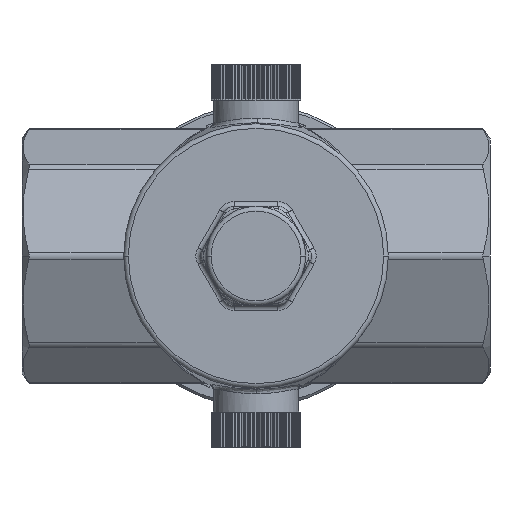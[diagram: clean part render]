
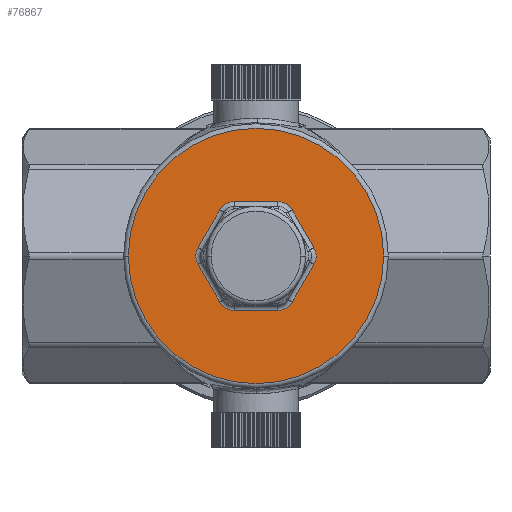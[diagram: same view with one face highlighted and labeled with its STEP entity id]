
A CAD part, front view. The second image highlights one B-rep face of the part: STEP entity #76867.
In plain terms, the highlighted planar face has unit normal (0, -1, 0).
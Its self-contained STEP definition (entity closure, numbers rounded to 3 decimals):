
#75714=CARTESIAN_POINT('',(-4.619,21.,8.));
#75715=DIRECTION('',(0.,-1.,0.));
#75716=DIRECTION('',(0.,0.,1.));
#75717=AXIS2_PLACEMENT_3D('',#75714,#75715,#75716);
#75719=DIRECTION('',(-0.5,0.,-0.866));
#75720=VECTOR('',#75719,9.238);
#75721=CARTESIAN_POINT('',(-7.65,21.,9.75));
#75722=LINE('',#75721,#75720);
#75723=CARTESIAN_POINT('',(-9.238,21.,0.));
#75724=DIRECTION('',(0.,-1.,0.));
#75725=DIRECTION('',(-0.866,0.,0.5));
#75726=AXIS2_PLACEMENT_3D('',#75723,#75724,#75725);
#75728=DIRECTION('',(0.5,0.,-0.866));
#75729=VECTOR('',#75728,9.238);
#75730=CARTESIAN_POINT('',(-12.269,21.,-1.75));
#75731=LINE('',#75730,#75729);
#75732=CARTESIAN_POINT('',(-4.619,21.,-8.));
#75733=DIRECTION('',(0.,-1.,0.));
#75734=DIRECTION('',(-0.866,0.,-0.5));
#75735=AXIS2_PLACEMENT_3D('',#75732,#75733,#75734);
#75737=DIRECTION('',(1.,0.,0.));
#75738=VECTOR('',#75737,9.238);
#75739=CARTESIAN_POINT('',(-4.619,21.,-11.5));
#75740=LINE('',#75739,#75738);
#75741=CARTESIAN_POINT('',(4.619,21.,-8.));
#75742=DIRECTION('',(0.,-1.,0.));
#75743=DIRECTION('',(0.,0.,-1.));
#75744=AXIS2_PLACEMENT_3D('',#75741,#75742,#75743);
#75746=DIRECTION('',(0.5,0.,0.866));
#75747=VECTOR('',#75746,9.238);
#75748=CARTESIAN_POINT('',(7.65,21.,-9.75));
#75749=LINE('',#75748,#75747);
#75750=CARTESIAN_POINT('',(9.238,21.,0.));
#75751=DIRECTION('',(0.,-1.,0.));
#75752=DIRECTION('',(0.866,0.,-0.5));
#75753=AXIS2_PLACEMENT_3D('',#75750,#75751,#75752);
#75755=DIRECTION('',(-0.5,0.,0.866));
#75756=VECTOR('',#75755,9.238);
#75757=CARTESIAN_POINT('',(12.269,21.,1.75));
#75758=LINE('',#75757,#75756);
#75759=CARTESIAN_POINT('',(4.619,21.,8.));
#75760=DIRECTION('',(0.,-1.,0.));
#75761=DIRECTION('',(0.866,0.,0.5));
#75762=AXIS2_PLACEMENT_3D('',#75759,#75760,#75761);
#75764=DIRECTION('',(-1.,0.,0.));
#75765=VECTOR('',#75764,9.238);
#75766=CARTESIAN_POINT('',(4.619,21.,11.5));
#75767=LINE('',#75766,#75765);
#75768=CARTESIAN_POINT('',(0.,21.,0.));
#75769=DIRECTION('',(0.,-1.,0.));
#75770=DIRECTION('',(1.,0.,0.));
#75771=AXIS2_PLACEMENT_3D('',#75768,#75769,#75770);
#75773=CARTESIAN_POINT('',(0.,21.,0.));
#75774=DIRECTION('',(0.,-1.,0.));
#75775=DIRECTION('',(-1.,0.,0.));
#75776=AXIS2_PLACEMENT_3D('',#75773,#75774,#75775);
#76457=CARTESIAN_POINT('',(-4.619,21.,11.5));
#76458=CARTESIAN_POINT('',(-7.65,21.,9.75));
#76459=VERTEX_POINT('',#76457);
#76460=VERTEX_POINT('',#76458);
#76465=CARTESIAN_POINT('',(-12.269,21.,1.75));
#76466=VERTEX_POINT('',#76465);
#76469=CARTESIAN_POINT('',(-12.269,21.,-1.75));
#76470=VERTEX_POINT('',#76469);
#76473=CARTESIAN_POINT('',(-7.65,21.,-9.75));
#76474=VERTEX_POINT('',#76473);
#76477=CARTESIAN_POINT('',(-4.619,21.,-11.5));
#76478=VERTEX_POINT('',#76477);
#76481=CARTESIAN_POINT('',(4.619,21.,-11.5));
#76482=VERTEX_POINT('',#76481);
#76485=CARTESIAN_POINT('',(7.65,21.,-9.75));
#76486=VERTEX_POINT('',#76485);
#76489=CARTESIAN_POINT('',(12.269,21.,-1.75));
#76490=VERTEX_POINT('',#76489);
#76493=CARTESIAN_POINT('',(12.269,21.,1.75));
#76494=VERTEX_POINT('',#76493);
#76497=CARTESIAN_POINT('',(7.65,21.,9.75));
#76498=VERTEX_POINT('',#76497);
#76501=CARTESIAN_POINT('',(4.619,21.,11.5));
#76502=VERTEX_POINT('',#76501);
#76555=CARTESIAN_POINT('',(27.,21.,0.));
#76556=CARTESIAN_POINT('',(-27.,21.,0.));
#76557=VERTEX_POINT('',#76555);
#76558=VERTEX_POINT('',#76556);
#76831=CARTESIAN_POINT('',(0.,21.,0.));
#76832=DIRECTION('',(0.,1.,0.));
#76833=DIRECTION('',(1.,0.,0.));
#76834=AXIS2_PLACEMENT_3D('',#76831,#76832,#76833);
#76835=PLANE('',#76834);
#76837=ORIENTED_EDGE('',*,*,#76836,.F.);
#76838=ORIENTED_EDGE('',*,*,#76821,.F.);
#76839=EDGE_LOOP('',(#76837,#76838));
#76840=FACE_OUTER_BOUND('',#76839,.F.);
#76842=ORIENTED_EDGE('',*,*,#76841,.T.);
#76844=ORIENTED_EDGE('',*,*,#76843,.T.);
#76846=ORIENTED_EDGE('',*,*,#76845,.T.);
#76848=ORIENTED_EDGE('',*,*,#76847,.T.);
#76850=ORIENTED_EDGE('',*,*,#76849,.T.);
#76852=ORIENTED_EDGE('',*,*,#76851,.T.);
#76854=ORIENTED_EDGE('',*,*,#76853,.T.);
#76856=ORIENTED_EDGE('',*,*,#76855,.T.);
#76858=ORIENTED_EDGE('',*,*,#76857,.T.);
#76860=ORIENTED_EDGE('',*,*,#76859,.T.);
#76862=ORIENTED_EDGE('',*,*,#76861,.T.);
#76864=ORIENTED_EDGE('',*,*,#76863,.T.);
#76865=EDGE_LOOP('',(#76842,#76844,#76846,#76848,#76850,#76852,#76854,#76856,
#76858,#76860,#76862,#76864));
#76866=FACE_BOUND('',#76865,.F.);
#76867=ADVANCED_FACE('',(#76840,#76866),#76835,.F.);
#75718=CIRCLE('',#75717,3.5);
#75727=CIRCLE('',#75726,3.5);
#75736=CIRCLE('',#75735,3.5);
#75745=CIRCLE('',#75744,3.5);
#75754=CIRCLE('',#75753,3.5);
#75763=CIRCLE('',#75762,3.5);
#75772=CIRCLE('',#75771,27.);
#75777=CIRCLE('',#75776,27.);
#76821=EDGE_CURVE('',#76558,#76557,#75777,.T.);
#76836=EDGE_CURVE('',#76557,#76558,#75772,.T.);
#76841=EDGE_CURVE('',#76459,#76460,#75718,.T.);
#76843=EDGE_CURVE('',#76460,#76466,#75722,.T.);
#76845=EDGE_CURVE('',#76466,#76470,#75727,.T.);
#76847=EDGE_CURVE('',#76470,#76474,#75731,.T.);
#76849=EDGE_CURVE('',#76474,#76478,#75736,.T.);
#76851=EDGE_CURVE('',#76478,#76482,#75740,.T.);
#76853=EDGE_CURVE('',#76482,#76486,#75745,.T.);
#76855=EDGE_CURVE('',#76486,#76490,#75749,.T.);
#76857=EDGE_CURVE('',#76490,#76494,#75754,.T.);
#76859=EDGE_CURVE('',#76494,#76498,#75758,.T.);
#76861=EDGE_CURVE('',#76498,#76502,#75763,.T.);
#76863=EDGE_CURVE('',#76502,#76459,#75767,.T.);
